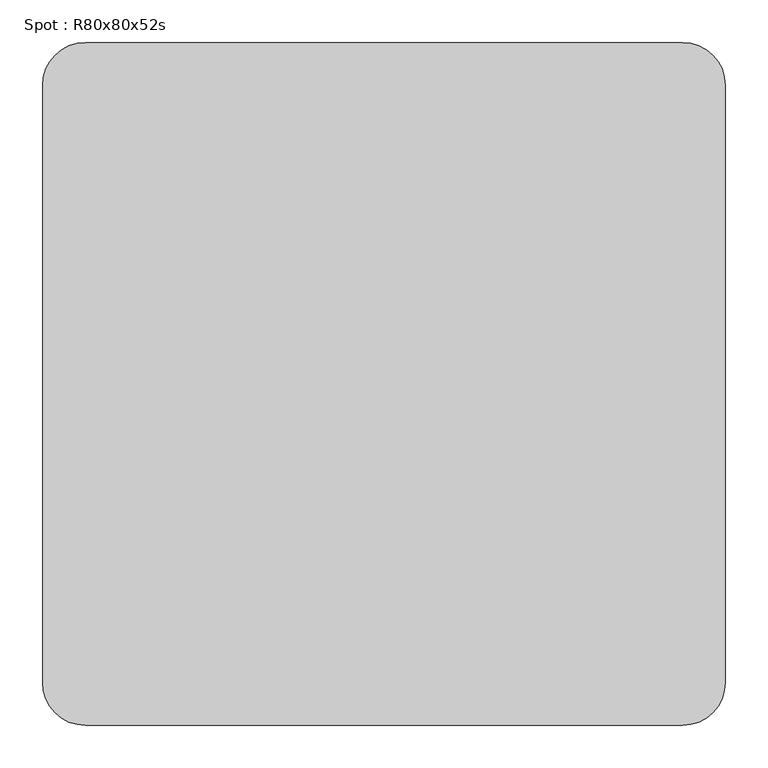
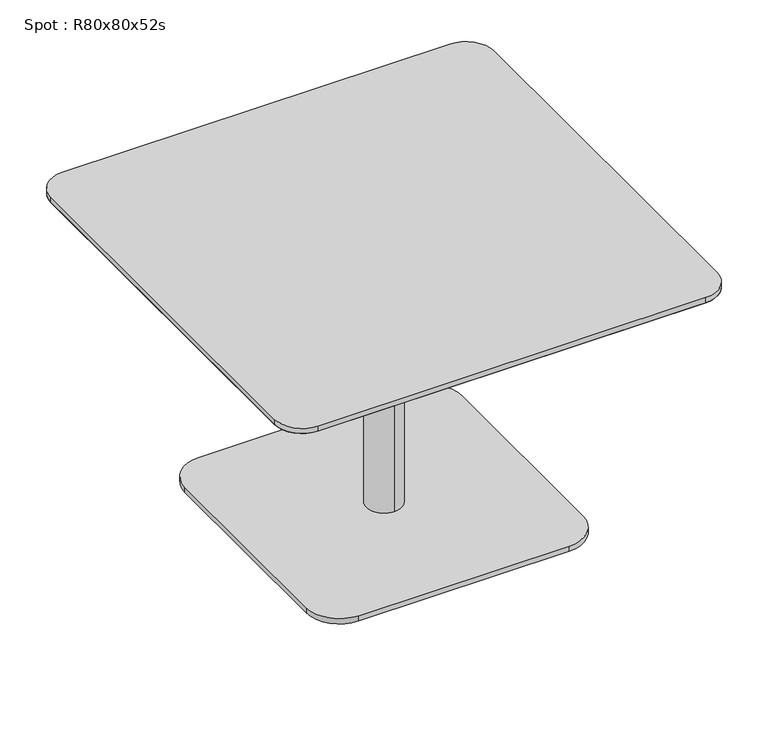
"""IFC4 building model written with IfcOpenShell, lengths in millimetres: furniture geometry, Spot : R80x80x52s."""

from ifc_helpers import new_model, si_unit, point, frame, frame_2d, origin, origin_with_axes, place, context, project, spatial, polyline, circle_curve, trimmed, segment, composite_curve, outline, extrude, source, transform, mapped, element, save
from ifc_brep_helpers import plane_surface, cylinder_surface, revolved_surface, advanced_brep


def spot_r80x80x52s_7f408e5c(model_context):
    return source(origin(), model_context, "Body", "SolidModel", [
        advanced_brep(
        [(-350.0, -350.0, 498.0), (-350.0, 350.0, 498.0), (350.0, 350.0, 498.0), (350.0, -350.0, 498.0), (-400.0, -350.0, 510.0), (-350.0, -400.0, 510.0), (350.0, -400.0, 510.0), (400.0, -350.0, 510.0), (400.0, 350.0, 510.0), (350.0, 400.0, 510.0), (-350.0, 400.0, 510.0), (-400.0, 350.0, 510.0)],
        [
            (0, 1),
            (1, 2),
            (2, 3),
            (3, 0),
            (4, 5, circle_curve(frame((-350.0, -350.0, 510.0), z_axis=(0.0, 0.0, 1.0), x_axis=(0.0, -1.0, 0.0)), 50.0)),
            (5, 6),
            (6, 7, circle_curve(frame((350.0, -350.0, 510.0), z_axis=(0.0, 0.0, 1.0), x_axis=(1.0, 0.0, 0.0)), 50.0)),
            (7, 8),
            (8, 9, circle_curve(frame((350.0, 350.0, 510.0), z_axis=(0.0, 0.0, 1.0), x_axis=(0.0, 1.0, 0.0)), 50.0)),
            (9, 10),
            (10, 11, circle_curve(frame((-350.0, 350.0, 510.0), z_axis=(0.0, 0.0, 1.0), x_axis=(-1.0, 0.0, 0.0)), 50.0)),
            (11, 4),
            (4, 0),
            (0, 5),
            (3, 6),
            (3, 7),
            (2, 8),
            (2, 9),
            (1, 10),
            (1, 11),
        ],
        [
            plane_surface(frame((0.0, 0.0, 498.0), z_axis=(0.0, 0.0, -1.0), x_axis=(-1.0, 0.0, 0.0))),
            plane_surface(frame((0.0, 0.0, 510.0), z_axis=(0.0, 0.0, 1.0), x_axis=(-1.0, 0.0, 0.0))),
            revolved_surface(polyline([(-350.0, -350.0, 498.0), (-350.0, -400.0, 510.0)]), (-350.0, -350.0, 498.0), (0.0, 0.0, 1.0)),
            plane_surface(frame((0.0, -400.0, 510.0), z_axis=(0.0, -0.2333729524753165, -0.9723873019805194), x_axis=(-1.0, 0.0, 0.0))),
            revolved_surface(polyline([(350.0, -350.0, 498.0), (400.0, -350.0, 510.0)]), (350.0, -350.0, 498.0), (0.0, 0.0, 1.0)),
            plane_surface(frame((400.0, 0.0, 510.0), z_axis=(0.23337295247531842, 0.0, -0.9723873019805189), x_axis=(0.0, -1.0, 0.0))),
            revolved_surface(polyline([(350.0, 350.0, 498.0), (350.0, 400.0, 510.0)]), (350.0, 350.0, 498.0), (0.0, 0.0, 1.0)),
            plane_surface(frame((0.0, 400.0, 510.0), z_axis=(0.0, 0.23337295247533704, -0.9723873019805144), x_axis=(1.0, 0.0, 0.0))),
            revolved_surface(polyline([(-350.0, 350.0, 498.0), (-400.0, 350.0, 510.0)]), (-350.0, 350.0, 498.0), (0.0, 0.0, 1.0)),
            plane_surface(frame((-400.0, 0.0, 510.0), z_axis=(-0.2333729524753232, 0.0, -0.9723873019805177), x_axis=(0.0, 1.0, 0.0))),
        ],
        [
            (0, [[1, 2, 3, 4]]),
            (1, [[5, 6, 7, 8, 9, 10, 11, 12]]),
            (2, [[-5, 13, 14]]),
            (3, [[-6, -14, -4, 15]]),
            (4, [[-7, -15, 16]]),
            (5, [[-8, -16, -3, 17]]),
            (6, [[-9, -17, 18]]),
            (7, [[-10, -18, -2, 19]]),
            (8, [[-11, -19, 20]]),
            (9, [[-12, -20, -1, -13]]),
        ],
    ),
        extrude(outline(composite_curve([segment(trimmed(circle_curve(frame_2d((350.0, 350.0)), 50.0), [point((350.0, 400.0))], [point((400.0, 350.0))], False, "CARTESIAN"), True, "CONTINUOUS"), segment(polyline([(400.0, 350.0), (400.0, -350.0)]), True, "CONTINUOUS"), segment(trimmed(circle_curve(frame_2d((350.0, -350.0)), 50.0), [point((400.0, -350.0))], [point((350.0, -400.0))], False, "CARTESIAN"), True, "CONTINUOUS"), segment(polyline([(350.0, -400.0), (-350.0, -400.0)]), True, "CONTINUOUS"), segment(trimmed(circle_curve(frame_2d((-350.0, -350.0)), 50.0), [point((-350.0, -400.0))], [point((-400.0, -350.0))], False, "CARTESIAN"), True, "CONTINUOUS"), segment(polyline([(-400.0, -350.0), (-400.0, 350.0)]), True, "CONTINUOUS"), segment(trimmed(circle_curve(frame_2d((-350.0, 350.0)), 50.0), [point((-400.0, 350.0))], [point((-350.0, 400.0))], False, "CARTESIAN"), True, "CONTINUOUS"), segment(polyline([(-350.0, 400.0), (350.0, 400.0)]), True, "CONTINUOUS")], self_intersect=False)), frame((0.0, 0.0, 510.0), z_axis=(0.0, 0.0, 1.0), x_axis=(1.0, 0.0, 0.0)), (0.0, 0.0, 1.0), 10.0),
        extrude(outline(composite_curve([segment(trimmed(circle_curve(frame_2d((190.0, 190.0)), 60.0), [point((190.0, 250.0))], [point((250.0, 190.0))], False, "CARTESIAN"), True, "CONTINUOUS"), segment(polyline([(250.0, 190.0), (250.0, -190.0)]), True, "CONTINUOUS"), segment(trimmed(circle_curve(frame_2d((190.0, -190.0)), 60.0), [point((250.0, -190.0))], [point((190.0, -250.0))], False, "CARTESIAN"), True, "CONTINUOUS"), segment(polyline([(190.0, -250.0), (-190.0, -250.0)]), True, "CONTINUOUS"), segment(trimmed(circle_curve(frame_2d((-190.0, -190.0)), 60.0), [point((-190.0, -250.0))], [point((-250.0, -190.0))], False, "CARTESIAN"), True, "CONTINUOUS"), segment(polyline([(-250.0, -190.0), (-250.0, 190.0)]), True, "CONTINUOUS"), segment(trimmed(circle_curve(frame_2d((-190.0, 190.0)), 60.0), [point((-250.0, 190.0))], [point((-190.0, 250.0))], False, "CARTESIAN"), True, "CONTINUOUS"), segment(polyline([(-190.0, 250.0), (190.0, 250.0)]), True, "CONTINUOUS")], self_intersect=False)), origin_with_axes(), (0.0, 0.0, 1.0), 10.0),
        advanced_brep(
        [(0.0, 32.0, 10.0), (0.0, -32.0, 10.0), (0.0, -32.0, 467.406916), (0.0, 32.0, 467.406916), (0.0, 0.0, 10.0), (0.0, 150.0, 498.0), (0.0, -150.0, 498.0), (0.0, 0.0, 498.0), (0.0, 150.0, 486.7213673), (0.0, -150.0, 486.7213673)],
        [
            (0, 1, circle_curve(frame((0.0, 0.0, 10.0), z_axis=(0.0, 0.0, 1.0), x_axis=(0.0, -1.0, 0.0)), 32.0)),
            (1, 2),
            (2, 3, circle_curve(frame((0.0, 0.0, 467.406916), z_axis=(0.0, 0.0, -1.0), x_axis=(0.0, -1.0, 0.0)), 32.0)),
            (3, 0),
            (1, 0, circle_curve(frame((0.0, 0.0, 10.0), z_axis=(0.0, 0.0, 1.0), x_axis=(0.0, -1.0, 0.0)), 32.0)),
            (3, 2, circle_curve(frame((0.0, 0.0, 467.406916), z_axis=(0.0, 0.0, -1.0), x_axis=(0.0, -1.0, 0.0)), 32.0)),
            (4, 1),
            (0, 4),
            (5, 6, circle_curve(frame((0.0, 0.0, 498.0), z_axis=(0.0, 0.0, 1.0), x_axis=(0.0, -1.0, 0.0)), 150.0)),
            (6, 7),
            (7, 5),
            (6, 5, circle_curve(frame((0.0, 0.0, 498.0), z_axis=(0.0, 0.0, 1.0), x_axis=(0.0, -1.0, 0.0)), 150.0)),
            (8, 9, circle_curve(frame((0.0, 0.0, 486.7213673), z_axis=(0.0, 0.0, 1.0), x_axis=(0.0, -1.0, 0.0)), 150.0)),
            (9, 6),
            (5, 8),
            (9, 8, circle_curve(frame((0.0, 0.0, 486.7213673), z_axis=(0.0, 0.0, 1.0), x_axis=(0.0, -1.0, 0.0)), 150.0)),
            (2, 9),
            (8, 3),
        ],
        [
            cylinder_surface(frame((0.0, 0.0, 860.0), z_axis=(0.0, 0.0, -1.0), x_axis=(0.0, -1.0, 0.0)), 32.0),
            plane_surface(frame((0.0, 0.0, 10.0), z_axis=(0.0, 0.0, -1.0), x_axis=(0.0, -1.0, 0.0))),
            plane_surface(frame((0.0, 0.0, 498.0), z_axis=(0.0, 0.0, 1.0), x_axis=(0.0, -1.0, 0.0))),
            cylinder_surface(frame((0.0, 0.0, 860.0), z_axis=(0.0, 0.0, -1.0), x_axis=(0.0, -1.0, 0.0)), 150.0),
            revolved_surface(polyline([(0.0, -150.0, 486.7213673), (0.0, -32.0, 467.406916)]), (0.0, 0.0, 860.0), (0.0, 0.0, -1.0)),
        ],
        [
            (0, [[1, 2, 3, 4]]),
            (0, [[5, -4, 6, -2]]),
            (1, [[7, -1, 8]]),
            (1, [[-8, -5, -7]]),
            (2, [[9, 10, 11]]),
            (2, [[12, -11, -10]]),
            (3, [[13, 14, -9, 15]]),
            (3, [[16, -15, -12, -14]]),
            (4, [[-3, 17, -13, 18]]),
            (4, [[-6, -18, -16, -17]]),
        ],
    ),
        extrude(outline(polyline([(0.0, 0.0), (-20.0, 0.0), (-20.0, 20.0), (0.0, 20.0), (0.0, 0.0)])), origin_with_axes(), (0.0, 0.0, 1.0), 10.0),
    ])


if __name__ == "__main__":
    model = new_model("IFC4")
    model_context = context("Model", 3, world=origin())
    ifc_project = project(units=[si_unit("LENGTHUNIT", "METRE", prefix="MILLI")], contexts=[model_context])
    site = spatial("IfcSite", under=ifc_project)
    building = spatial("IfcBuilding", under=site)
    placement = place(None, origin())
    spot_r80x80x52s_shape = spot_r80x80x52s_7f408e5c(model_context)
    element("IfcFurniture", 1, ObjectType="Spot : R80x80x52s", at=placement, inside=building, context=model_context, shape_type="MappedRepresentation", body=[
        mapped(spot_r80x80x52s_shape, transform((0.0, 0.0, 0.0), x_axis=(1.0, 0.0, 0.0), y_axis=(0.0, 1.0, 0.0), z_axis=(0.0, 0.0, 1.0))),
    ])
    save(model, "model.ifc")
